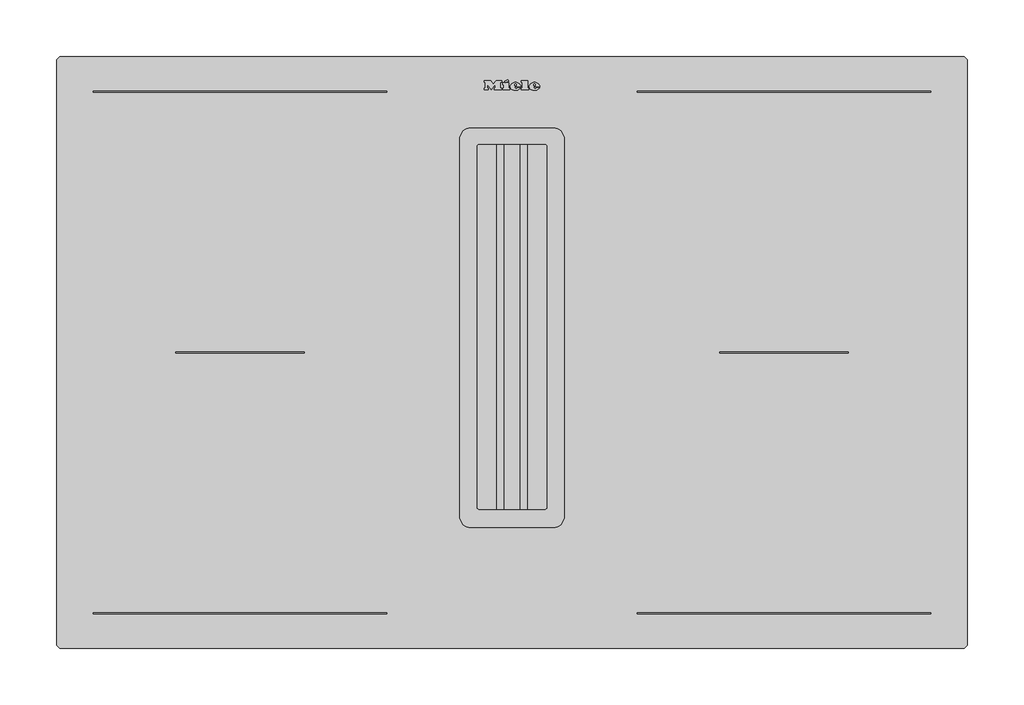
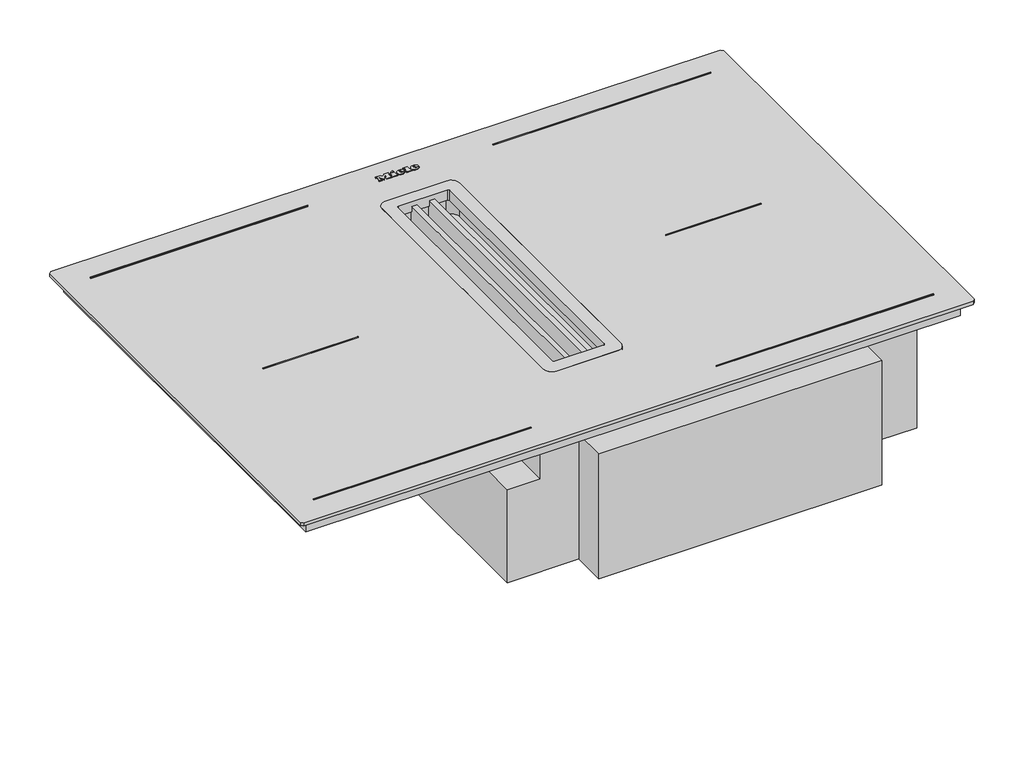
# Not in any storey: 1 proxy.
"""IFC4 building model written with IfcOpenShell, lengths in millimetres."""

import ifcopenshell
import ifcopenshell.guid

model = None  # the IFC model being written
_history = None  # IfcOwnerHistory: only IFC2X3 demands one
_inside = {}  # id of a spatial element -> (the spatial element, [elements in it])
_under = {}  # id of a project, library or spatial element -> (it, [spatial elements below it])
_declared = {}  # id of a project -> (the project, [libraries it declares])
_typed = {}  # id of a type object -> (the type object, [elements of that type])
_made_of = {}  # id of a material, layer set ... -> (it, [elements and type objects made of it])


def new_model(schema):
    """Start an empty IFC model of exactly this schema.

    Asked for "IFC4X3", IfcOpenShell would pick the latest addendum, in which some entities
    have other attributes; the version numbers below select the first issue.
    IFC2X3 requires an IfcOwnerHistory on every rooted entity: one is made here for all.
    """
    global model, _history
    if schema == "IFC4X3":
        model = ifcopenshell.file(schema_version=(4, 3, 0, 0))
    else:
        model = ifcopenshell.file(schema=schema)
    _inside.clear()
    _under.clear()
    _declared.clear()
    _typed.clear()
    _made_of.clear()
    _history = None
    if model.schema == "IFC2X3":
        org = make("IfcOrganization", Name="unknown")
        user = make(
            "IfcPersonAndOrganization",
            ThePerson=make("IfcPerson", FamilyName="unknown"),
            TheOrganization=org,
        )
        app = make(
            "IfcApplication",
            ApplicationDeveloper=org,
            Version="unknown",
            ApplicationFullName="unknown",
            ApplicationIdentifier="unknown",
        )
        _history = make(
            "IfcOwnerHistory",
            OwningUser=user,
            OwningApplication=app,
            ChangeAction="ADDED",
            CreationDate=0,
        )
    return model


def make(cls, **values):
    """One entity of the class cls with the attributes given. An attribute that is None is left unset."""
    return model.create_entity(
        cls, **{name: value for name, value in values.items() if value is not None}
    )


def rooted(cls, **values):
    """An entity with a GlobalId (a new one), such as an element, a storey or a relation."""
    return make(cls, GlobalId=ifcopenshell.guid.new(), OwnerHistory=_history, **values)


def si_unit(unit_type, name, prefix=None):
    """IfcSIUnit, for example si_unit("LENGTHUNIT", "METRE", prefix="MILLI")."""
    return make("IfcSIUnit", UnitType=unit_type, Prefix=prefix, Name=name)


def assignment(units):
    """IfcUnitAssignment: the units of a project."""
    return None if units is None else make("IfcUnitAssignment", Units=units)


def point(xyz):
    """IfcCartesianPoint."""
    return None if xyz is None else make("IfcCartesianPoint", Coordinates=xyz)


def direction(xyz):
    """IfcDirection."""
    return None if xyz is None else make("IfcDirection", DirectionRatios=xyz)


def frame(location, z_axis=None, x_axis=None):
    """IfcAxis2Placement3D, a coordinate frame: its origin and axes. An axis left out is left unset."""
    return make(
        "IfcAxis2Placement3D",
        Location=point(location),
        Axis=direction(z_axis),
        RefDirection=direction(x_axis),
    )


def frame_2d(location, x_axis=None):
    """IfcAxis2Placement2D, a coordinate frame in the plane: its origin and x axis."""
    return make(
        "IfcAxis2Placement2D", Location=point(location), RefDirection=direction(x_axis)
    )


def origin():
    """The frame at (0, 0, 0) with its axes left unset."""
    return frame((0.0, 0.0, 0.0))


def origin_with_axes():
    """The frame at (0, 0, 0) with the z axis (0, 0, 1) and the x axis (1, 0, 0) written out."""
    return frame((0.0, 0.0, 0.0), z_axis=(0.0, 0.0, 1.0), x_axis=(1.0, 0.0, 0.0))


def place(relative_to, where):
    """IfcLocalPlacement: puts the frame where relative to a parent placement (None: the world)."""
    return make(
        "IfcLocalPlacement", PlacementRelTo=relative_to, RelativePlacement=where
    )


def context(
    kind, dimensions, precision=None, world=None, true_north=None, identifier=None
):
    """IfcGeometricRepresentationContext, for example the 3D "Model" context."""
    return make(
        "IfcGeometricRepresentationContext",
        ContextIdentifier=identifier,
        ContextType=kind,
        CoordinateSpaceDimension=dimensions,
        Precision=precision,
        WorldCoordinateSystem=world,
        TrueNorth=true_north,
    )


def project(units=None, contexts=None):
    """IfcProject with its units and contexts."""
    return rooted(
        "IfcProject",
        Name="project",
        RepresentationContexts=contexts,
        UnitsInContext=assignment(units),
    )


def spatial(cls, under=None, at=None, **own):
    """A site, building, storey or space (cls), placed at a placement, below another one or the project."""
    s = rooted(cls, ObjectPlacement=at, **own)
    if under is not None:
        _under.setdefault(under.id(), (under, []))[1].append(s)
    return s


def polyline(points):
    """IfcPolyline through the points."""
    return make("IfcPolyline", Points=[point(p) for p in points])


def circle_curve(where, radius):
    """IfcCircle in the frame where."""
    return make("IfcCircle", Position=where, Radius=radius)


def ellipse_curve(where, semi_axis1, semi_axis2):
    """IfcEllipse in the frame where."""
    return make(
        "IfcEllipse", Position=where, SemiAxis1=semi_axis1, SemiAxis2=semi_axis2
    )


def trimmed(basis, trim1, trim2, sense, master):
    """IfcTrimmedCurve: the piece of a basis curve between two trims."""
    return make(
        "IfcTrimmedCurve",
        BasisCurve=basis,
        Trim1=trim1,
        Trim2=trim2,
        SenseAgreement=sense,
        MasterRepresentation=master,
    )


def segment(curve, same_sense, transition):
    """IfcCompositeCurveSegment."""
    return make(
        "IfcCompositeCurveSegment",
        Transition=transition,
        SameSense=same_sense,
        ParentCurve=curve,
    )


def composite_curve(segments, self_intersect=None):
    """IfcCompositeCurve: segments joined end to end."""
    return make("IfcCompositeCurve", Segments=segments, SelfIntersect=self_intersect)


def outline(outer, holes=None, kind="AREA"):
    """IfcArbitraryClosedProfileDef: a profile drawn as a closed curve; with holes, ...WithVoids."""
    if holes is None:
        return make("IfcArbitraryClosedProfileDef", ProfileType=kind, OuterCurve=outer)
    return make(
        "IfcArbitraryProfileDefWithVoids",
        ProfileType=kind,
        OuterCurve=outer,
        InnerCurves=holes,
    )


def extrude(swept, where, along, depth):
    """IfcExtrudedAreaSolid: the profile swept, set in the frame where, extruded along a direction by depth."""
    return make(
        "IfcExtrudedAreaSolid",
        SweptArea=swept,
        Position=where,
        ExtrudedDirection=direction(along),
        Depth=depth,
    )


def shape(context_of_items, identifier, shape_type, items):
    """IfcShapeRepresentation: the items that make up one representation, for example the "Body"."""
    return make(
        "IfcShapeRepresentation",
        ContextOfItems=context_of_items,
        RepresentationIdentifier=identifier,
        RepresentationType=shape_type,
        Items=items,
    )


def source(mapping_origin, context_of_items, identifier, shape_type, items):
    """IfcRepresentationMap: a shape defined once, which mapped items show again and again."""
    return make(
        "IfcRepresentationMap",
        MappingOrigin=mapping_origin,
        MappedRepresentation=shape(context_of_items, identifier, shape_type, items),
    )


def transform(
    local_origin,
    x_axis=None,
    y_axis=None,
    z_axis=None,
    scale=None,
    scale2=None,
    scale3=None,
    uniform=True,
):
    """IfcCartesianTransformationOperator3D, or its non-uniform kind. x_axis, y_axis, z_axis: its Axis1, 2, 3."""
    if uniform:
        return make(
            "IfcCartesianTransformationOperator3D",
            Axis1=direction(x_axis),
            Axis2=direction(y_axis),
            LocalOrigin=point(local_origin),
            Scale=scale,
            Axis3=direction(z_axis),
        )
    return make(
        "IfcCartesianTransformationOperator3DnonUniform",
        Axis1=direction(x_axis),
        Axis2=direction(y_axis),
        LocalOrigin=point(local_origin),
        Scale=scale,
        Axis3=direction(z_axis),
        Scale2=scale2,
        Scale3=scale3,
    )


def mapped(mapping_source, mapping_target):
    """IfcMappedItem: shows the shape of a source again, moved by a transform."""
    return make(
        "IfcMappedItem", MappingSource=mapping_source, MappingTarget=mapping_target
    )


def made_of(thing, what):
    """Note that an element or type object is made of a material, layer set ...; save() writes the relation."""
    if what is not None:
        _made_of.setdefault(what.id(), (what, []))[1].append(thing)
    return thing


def element(
    cls,
    number,
    at=None,
    inside=None,
    cuts=None,
    type_object=None,
    material=None,
    context=None,
    identifier="Body",
    shape_type=None,
    held_by="IfcProductDefinitionShape",
    body=None,
    shapes=None,
    **own,
):
    """One element of the class cls, such as IfcWall. Its Tag is "e" and its number.

    at: its placement. inside: the storey or other place that contains it. cuts: it is an
    opening in that element (IfcRelVoidsElement). A single representation is given by context,
    identifier, shape_type and body (its items); several are given by shapes. held_by: the class
    of the entity that holds the representations. save() writes the other relations.
    """
    e = rooted(cls, Tag="e%d" % number, ObjectPlacement=at, **own)
    if body is not None:
        shapes = [shape(context, identifier, shape_type, body)]
    if shapes is not None:
        e.Representation = make(held_by, Representations=shapes)
    if inside is not None:
        _inside.setdefault(inside.id(), (inside, []))[1].append(e)
    if cuts is not None:
        rooted(
            "IfcRelVoidsElement", RelatingBuildingElement=cuts, RelatedOpeningElement=e
        )
    if type_object is not None:
        _typed.setdefault(type_object.id(), (type_object, []))[1].append(e)
    return made_of(e, material)


def aggregate(whole, parts):
    """IfcRelAggregates: a whole, such as a stair, and the parts it consists of."""
    return rooted("IfcRelAggregates", RelatingObject=whole, RelatedObjects=parts)


def save(model, path):
    """Write the relations noted so far, then the file.

    IfcRelAggregates (storeys below a building ...), IfcRelContainedInSpatialStructure (elements
    in a storey), IfcRelDefinesByType, IfcRelAssociatesMaterial and IfcRelDeclares: one each for
    every whole, place, type object, material and project.
    """
    for whole, parts in _under.values():
        aggregate(whole, parts)
    for where, things in _inside.values():
        rooted(
            "IfcRelContainedInSpatialStructure",
            RelatedElements=things,
            RelatingStructure=where,
        )
    for kind, things in _typed.values():
        rooted("IfcRelDefinesByType", RelatedObjects=things, RelatingType=kind)
    for what, things in _made_of.values():
        rooted("IfcRelAssociatesMaterial", RelatedObjects=things, RelatingMaterial=what)
    for by, libraries in _declared.values():
        rooted("IfcRelDeclares", RelatingContext=by, RelatedDefinitions=libraries)
    model.write(path)


def plane_surface(at):
    """IfcPlane: the flat surface through the origin of the frame at, square to its z axis."""
    return make("IfcPlane", Position=at)


def cylinder_surface(at, radius):
    """IfcCylindricalSurface: all points at the distance radius from the z axis of the frame at."""
    return make("IfcCylindricalSurface", Position=at, Radius=radius)


def revolved_surface(curve, axis_point, axis_direction):
    """IfcSurfaceOfRevolution: the curve turned about the line through axis_point along axis_direction."""
    return make(
        "IfcSurfaceOfRevolution",
        SweptCurve=make("IfcArbitraryOpenProfileDef", ProfileType="CURVE", Curve=curve),
        AxisPosition=make("IfcAxis1Placement", Location=point(axis_point), Axis=direction(axis_direction)),
    )


def extruded_surface(curve, direction_of_extrusion, depth):
    """IfcSurfaceOfLinearExtrusion: the curve pushed along a direction by depth."""
    return make(
        "IfcSurfaceOfLinearExtrusion",
        SweptCurve=make("IfcArbitraryOpenProfileDef", ProfileType="CURVE", Curve=curve),
        ExtrudedDirection=direction(direction_of_extrusion),
        Depth=depth,
    )


def advanced_brep(points, edges, surfaces, faces):
    """IfcAdvancedBrep: a solid bounded by faces that lie on surfaces and meet in shared edges.

    An edge is (start, end): straight between two places in points (the first is 0);
    or (start, end, curve); or (start, end, curve, False) where it runs against its curve.
    A face is (place in surfaces, loops), or (place, loops, False) where it looks against
    its surface's normal. A loop lists edges by number (the first is 1), with a minus sign
    where the edge is run from its end to its start. The first loop is the outer one.
    """
    corners = [point(p) for p in points]
    vertices = [make("IfcVertexPoint", VertexGeometry=c) for c in corners]
    made = []
    for start, end, *more in edges:
        made.append(
            make(
                "IfcEdgeCurve",
                EdgeStart=vertices[start],
                EdgeEnd=vertices[end],
                EdgeGeometry=more[0] if more else make("IfcPolyline", Points=[corners[start], corners[end]]),
                SameSense=more[1] if len(more) > 1 else True,
            )
        )
    hull = []
    for where, loops, *sense in faces:
        bounds = []
        for j, loop in enumerate(loops):
            ring = [make("IfcOrientedEdge", EdgeElement=made[abs(k) - 1], Orientation=k > 0) for k in loop]
            bounds.append(
                make(
                    "IfcFaceOuterBound" if j == 0 else "IfcFaceBound",
                    Bound=make("IfcEdgeLoop", EdgeList=ring),
                    Orientation=True,
                )
            )
        hull.append(make("IfcAdvancedFace", Bounds=bounds, FaceSurface=surfaces[where], SameSense=sense[0] if sense else True))
    return make("IfcAdvancedBrep", Outer=make("IfcClosedShell", CfsFaces=hull))


def specialty_equipment_ea9cbad4(model_context):
    return source(origin(), model_context, "Body", "SolidModel", [
        advanced_brep(
        [(19.088016, 492.896, 5.0), (19.088016, 493.704, 5.0), (24.440016, 493.704, 5.0), (15.128016, 493.704, 5.0), (17.328016, 491.0, 5.0), (24.304016, 492.896, 5.0), (21.888016, 492.896, 5.0), (19.984016, 492.0, 5.0), (19.088016, 494.728, 5.0), (19.088016, 495.6, 5.0), (20.456016, 495.6, 5.0), (20.456016, 494.728, 5.0), (19.088016, 492.896, 4.0), (19.984016, 492.0, 4.0), (21.888016, 492.896, 4.0), (24.304016, 492.896, 4.0), (17.328016, 491.0, 4.0), (15.128016, 493.704, 4.0), (24.440016, 493.704, 4.0), (19.088016, 493.704, 4.0), (19.088016, 494.728, 4.0), (20.456016, 494.728, 4.0), (20.456016, 495.6, 4.0), (19.088016, 495.6, 4.0)],
        [
            (0, 1),
            (1, 2),
            (2, 3, ellipse_curve(frame((19.784016, 493.704, 5.0), z_axis=(0.0, 0.0, 1.0), x_axis=(-1.0, 0.0, 0.0)), 4.656, 3.848)),
            (3, 4, circle_curve(frame((18.2240596, 493.976, 5.0), z_axis=(0.0, 0.0, 1.0), x_axis=(0.0, -1.0, 0.0)), 3.1079688)),
            (4, 5, circle_curve(frame((19.6908096, 496.088, 5.0), z_axis=(0.0, 0.0, 1.0), x_axis=(0.0, -1.0, 0.0)), 5.6098607)),
            (5, 6),
            (6, 7, circle_curve(frame((20.3750748, 493.64, 5.0), z_axis=(0.0, 0.0, -1.0), x_axis=(0.0, -1.0, 0.0)), 1.6859795)),
            (7, 0, circle_curve(frame((19.984016, 492.896, 5.0), z_axis=(0.0, 0.0, -1.0), x_axis=(0.0, -1.0, 0.0)), 0.896)),
            (8, 9),
            (9, 10, circle_curve(frame((19.772016, 495.6, 5.0), z_axis=(0.0, 0.0, -1.0), x_axis=(0.0, -1.0, 0.0)), 0.684)),
            (10, 11),
            (11, 8),
            (12, 13, circle_curve(frame((19.984016, 492.896, 4.0), z_axis=(0.0, 0.0, 1.0), x_axis=(0.0, -1.0, 0.0)), 0.896)),
            (13, 14, circle_curve(frame((20.3750748, 493.64, 4.0), z_axis=(0.0, 0.0, 1.0), x_axis=(0.0, -1.0, 0.0)), 1.6859795)),
            (14, 15),
            (15, 16, circle_curve(frame((19.6908096, 496.088, 4.0), z_axis=(0.0, 0.0, -1.0), x_axis=(0.0, -1.0, 0.0)), 5.6098607)),
            (16, 17, circle_curve(frame((18.2240596, 493.976, 4.0), z_axis=(0.0, 0.0, -1.0), x_axis=(0.0, -1.0, 0.0)), 3.1079688)),
            (17, 18, ellipse_curve(frame((19.784016, 493.704, 4.0), z_axis=(0.0, 0.0, -1.0), x_axis=(-1.0, 0.0, 0.0)), 4.656, 3.848)),
            (18, 19),
            (19, 12),
            (20, 21),
            (21, 22),
            (22, 23, circle_curve(frame((19.772016, 495.6, 4.0), z_axis=(0.0, 0.0, 1.0), x_axis=(0.0, -1.0, 0.0)), 0.684)),
            (23, 20),
            (0, 12),
            (19, 1),
            (18, 2),
            (5, 15),
            (14, 6),
            (17, 3),
            (13, 7),
            (16, 4),
            (8, 20),
            (23, 9),
            (22, 10),
            (21, 11),
        ],
        [
            plane_surface(frame((19.088016, 493.704, 5.0), z_axis=(0.0, 0.0, 1.0), x_axis=(0.0, 1.0, 0.0))),
            plane_surface(frame((19.088016, 493.704, 4.0), z_axis=(0.0, 0.0, -1.0), x_axis=(0.0, -1.0, 0.0))),
            plane_surface(frame((19.088016, 492.896, 5.0), z_axis=(1.0, 0.0, 0.0), x_axis=(0.0, 0.0, -1.0))),
            plane_surface(frame((19.088016, 493.704, 5.0), z_axis=(0.0, -1.0, 0.0), x_axis=(0.0, 0.0, -1.0))),
            plane_surface(frame((24.304016, 492.896, 5.0), z_axis=(0.0, 1.0, 0.0), x_axis=(0.0, 0.0, -1.0))),
            extruded_surface(trimmed(ellipse_curve(frame((19.784016, 493.704, 3.0), z_axis=(0.0, 0.0, 1.0), x_axis=(-1.0, 0.0, 0.0)), 4.656, 3.848), [point((24.440016, 493.704, 3.0))], [point((15.128016, 493.704, 3.0))], True, "CARTESIAN"), (0.0, 0.0, 1.0), 1.0),
            revolved_surface(polyline([(20.3750748, 491.9540205, 4.0), (20.3750748, 491.9540205, 5.0)]), (20.3750748, 493.64, 4.0), (0.0, 0.0, -1.0)),
            revolved_surface(polyline([(19.984016, 492.0, 4.0), (19.984016, 492.0, 5.0)]), (19.984016, 492.896, 4.0), (0.0, 0.0, -1.0)),
            cylinder_surface(frame((18.2240596, 493.976, 4.0), z_axis=(0.0, 0.0, 1.0), x_axis=(0.0, -1.0, 0.0)), 3.1079688),
            cylinder_surface(frame((19.6908096, 496.088, 4.0), z_axis=(0.0, 0.0, 1.0), x_axis=(0.0, -1.0, 0.0)), 5.6098607),
            plane_surface(frame((19.088016, 494.728, 5.0), z_axis=(1.0, 0.0, 0.0), x_axis=(0.0, 0.0, -1.0))),
            revolved_surface(polyline([(19.772016, 494.916, 4.0), (19.772016, 494.916, 5.0)]), (19.772016, 495.6, 4.0), (0.0, 0.0, -1.0)),
            plane_surface(frame((20.456016, 495.6, 5.0), z_axis=(-1.0, 0.0, 0.0), x_axis=(0.0, 0.0, -1.0))),
            plane_surface(frame((20.456016, 494.728, 5.0), z_axis=(0.0, 1.0, 0.0), x_axis=(0.0, 0.0, -1.0))),
        ],
        [
            (0, [[1, 2, 3, 4, 5, 6, 7, 8], [9, 10, 11, 12]]),
            (1, [[13, 14, 15, 16, 17, 18, 19, 20], [21, 22, 23, 24]]),
            (2, [[-1, 25, -20, 26]]),
            (3, [[-2, -26, -19, 27]]),
            (4, [[-6, 28, -15, 29]]),
            (5, [[-3, -27, -18, 30]]),
            (6, [[-7, -29, -14, 31]]),
            (7, [[-8, -31, -13, -25]]),
            (8, [[-4, -30, -17, 32]]),
            (9, [[-5, -32, -16, -28]]),
            (10, [[-9, 33, -24, 34]]),
            (11, [[-10, -34, -23, 35]]),
            (12, [[-11, -35, -22, 36]]),
            (13, [[-12, -36, -21, -33]]),
        ],
    ),
        advanced_brep(
        [(2.392016, 492.896, 5.0), (2.392016, 493.704, 5.0), (7.744016, 493.704, 5.0), (-1.567984, 493.704, 5.0), (0.632016, 491.0, 5.0), (7.608016, 492.896, 5.0), (5.192016, 492.896, 5.0), (3.288016, 492.0, 5.0), (2.392016, 494.728, 5.0), (2.392016, 495.6, 5.0), (3.760016, 495.6, 5.0), (3.760016, 494.728, 5.0), (2.392016, 492.896, 4.0), (3.288016, 492.0, 4.0), (5.192016, 492.896, 4.0), (7.608016, 492.896, 4.0), (0.632016, 491.0, 4.0), (-1.567984, 493.704, 4.0), (7.744016, 493.704, 4.0), (2.392016, 493.704, 4.0), (2.392016, 494.728, 4.0), (3.760016, 494.728, 4.0), (3.760016, 495.6, 4.0), (2.392016, 495.6, 4.0)],
        [
            (0, 1),
            (1, 2),
            (2, 3, ellipse_curve(frame((3.088016, 493.704, 5.0), z_axis=(0.0, 0.0, 1.0), x_axis=(-1.0, 0.0, 0.0)), 4.656, 3.848)),
            (3, 4, circle_curve(frame((1.5280596, 493.976, 5.0), z_axis=(0.0, 0.0, 1.0), x_axis=(0.0, -1.0, 0.0)), 3.1079688)),
            (4, 5, circle_curve(frame((2.9948096, 496.088, 5.0), z_axis=(0.0, 0.0, 1.0), x_axis=(0.0, -1.0, 0.0)), 5.6098607)),
            (5, 6),
            (6, 7, circle_curve(frame((3.6790748, 493.64, 5.0), z_axis=(0.0, 0.0, -1.0), x_axis=(0.0, -1.0, 0.0)), 1.6859795)),
            (7, 0, circle_curve(frame((3.288016, 492.896, 5.0), z_axis=(0.0, 0.0, -1.0), x_axis=(0.0, -1.0, 0.0)), 0.896)),
            (8, 9),
            (9, 10, circle_curve(frame((3.076016, 495.6, 5.0), z_axis=(0.0, 0.0, -1.0), x_axis=(0.0, -1.0, 0.0)), 0.684)),
            (10, 11),
            (11, 8),
            (12, 13, circle_curve(frame((3.288016, 492.896, 4.0), z_axis=(0.0, 0.0, 1.0), x_axis=(0.0, -1.0, 0.0)), 0.896)),
            (13, 14, circle_curve(frame((3.6790748, 493.64, 4.0), z_axis=(0.0, 0.0, 1.0), x_axis=(0.0, -1.0, 0.0)), 1.6859795)),
            (14, 15),
            (15, 16, circle_curve(frame((2.9948096, 496.088, 4.0), z_axis=(0.0, 0.0, -1.0), x_axis=(0.0, -1.0, 0.0)), 5.6098607)),
            (16, 17, circle_curve(frame((1.5280596, 493.976, 4.0), z_axis=(0.0, 0.0, -1.0), x_axis=(0.0, -1.0, 0.0)), 3.1079688)),
            (17, 18, ellipse_curve(frame((3.088016, 493.704, 4.0), z_axis=(0.0, 0.0, -1.0), x_axis=(-1.0, 0.0, 0.0)), 4.656, 3.848)),
            (18, 19),
            (19, 12),
            (20, 21),
            (21, 22),
            (22, 23, circle_curve(frame((3.076016, 495.6, 4.0), z_axis=(0.0, 0.0, 1.0), x_axis=(0.0, -1.0, 0.0)), 0.684)),
            (23, 20),
            (0, 12),
            (19, 1),
            (18, 2),
            (5, 15),
            (14, 6),
            (17, 3),
            (13, 7),
            (16, 4),
            (8, 20),
            (23, 9),
            (22, 10),
            (21, 11),
        ],
        [
            plane_surface(frame((2.392016, 493.704, 5.0), z_axis=(0.0, 0.0, 1.0), x_axis=(0.0, 1.0, 0.0))),
            plane_surface(frame((2.392016, 493.704, 4.0), z_axis=(0.0, 0.0, -1.0), x_axis=(0.0, -1.0, 0.0))),
            plane_surface(frame((2.392016, 492.896, 5.0), z_axis=(1.0, 0.0, 0.0), x_axis=(0.0, 0.0, -1.0))),
            plane_surface(frame((2.392016, 493.704, 5.0), z_axis=(0.0, -1.0, 0.0), x_axis=(0.0, 0.0, -1.0))),
            plane_surface(frame((7.608016, 492.896, 5.0), z_axis=(0.0, 1.0, 0.0), x_axis=(0.0, 0.0, -1.0))),
            extruded_surface(trimmed(ellipse_curve(frame((3.088016, 493.704, 3.0), z_axis=(0.0, 0.0, 1.0), x_axis=(-1.0, 0.0, 0.0)), 4.656, 3.848), [point((7.744016, 493.704, 3.0))], [point((-1.567984, 493.704, 3.0))], True, "CARTESIAN"), (0.0, 0.0, 1.0), 1.0),
            revolved_surface(polyline([(3.6790748, 491.9540205, 4.0), (3.6790748, 491.9540205, 5.0)]), (3.6790748, 493.64, 4.0), (0.0, 0.0, -1.0)),
            revolved_surface(polyline([(3.288016, 492.0, 4.0), (3.288016, 492.0, 5.0)]), (3.288016, 492.896, 4.0), (0.0, 0.0, -1.0)),
            cylinder_surface(frame((1.5280596, 493.976, 4.0), z_axis=(0.0, 0.0, 1.0), x_axis=(0.0, -1.0, 0.0)), 3.1079688),
            cylinder_surface(frame((2.9948096, 496.088, 4.0), z_axis=(0.0, 0.0, 1.0), x_axis=(0.0, -1.0, 0.0)), 5.6098607),
            plane_surface(frame((2.392016, 494.728, 5.0), z_axis=(1.0, 0.0, 0.0), x_axis=(0.0, 0.0, -1.0))),
            revolved_surface(polyline([(3.076016, 494.916, 4.0), (3.076016, 494.916, 5.0)]), (3.076016, 495.6, 4.0), (0.0, 0.0, -1.0)),
            plane_surface(frame((3.760016, 495.6, 5.0), z_axis=(-1.0, 0.0, 0.0), x_axis=(0.0, 0.0, -1.0))),
            plane_surface(frame((3.760016, 494.728, 5.0), z_axis=(0.0, 1.0, 0.0), x_axis=(0.0, 0.0, -1.0))),
        ],
        [
            (0, [[1, 2, 3, 4, 5, 6, 7, 8], [9, 10, 11, 12]]),
            (1, [[13, 14, 15, 16, 17, 18, 19, 20], [21, 22, 23, 24]]),
            (2, [[-1, 25, -20, 26]]),
            (3, [[-2, -26, -19, 27]]),
            (4, [[-6, 28, -15, 29]]),
            (5, [[-3, -27, -18, 30]]),
            (6, [[-7, -29, -14, 31]]),
            (7, [[-8, -31, -13, -25]]),
            (8, [[-4, -30, -17, 32]]),
            (9, [[-5, -32, -16, -28]]),
            (10, [[-9, 33, -24, 34]]),
            (11, [[-10, -34, -23, 35]]),
            (12, [[-11, -35, -22, 36]]),
            (13, [[-12, -36, -21, -33]]),
        ],
    ),
        extrude(outline(polyline([(-6.351984, 498.528), (-3.631984, 499.792), (-3.031984, 498.496), (-5.743984, 497.232), (-6.351984, 498.528)])), frame((0.0, 0.0, 4.0), z_axis=(0.0, 0.0, 1.0), x_axis=(1.0, 0.0, 0.0)), (0.0, 0.0, 1.0), 1.0),
        extrude(outline(polyline([(-8.327984, 497.056), (-2.943984, 497.056), (-2.943984, 492.344), (-2.015984, 492.344), (-2.015984, 491.0), (-8.327984, 491.0), (-8.327984, 492.344), (-7.375984, 492.344), (-7.375984, 495.624), (-8.327984, 495.624), (-8.327984, 497.056)])), frame((0.0, 0.0, 4.0), z_axis=(0.0, 0.0, 1.0), x_axis=(1.0, 0.0, 0.0)), (0.0, 0.0, 1.0), 1.0),
        extrude(outline(polyline([(8.192016, 497.696), (8.192016, 499.0), (13.696016, 499.0), (13.696016, 492.344), (14.680016, 492.344), (14.680016, 491.0), (8.192016, 491.0), (8.192016, 492.344), (9.152016, 492.344), (9.152016, 497.696), (8.192016, 497.696)])), frame((0.0, 0.0, 4.0), z_axis=(0.0, 0.0, 1.0), x_axis=(1.0, 0.0, 0.0)), (0.0, 0.0, 1.0), 1.0),
        extrude(outline(polyline([(-24.271984, 497.696), (-24.271984, 499.0), (-18.695984, 499.0), (-16.351984, 496.0), (-14.015984, 499.0), (-9.143984, 499.0), (-9.143984, 497.696), (-10.159984, 497.696), (-10.159984, 492.344), (-9.143984, 492.344), (-9.143984, 491.0), (-15.527984, 491.0), (-15.527984, 492.344), (-14.543984, 492.344), (-14.543984, 495.8152223), (-18.135984, 491.0), (-21.711984, 495.7471247), (-21.711984, 492.344), (-20.751984, 492.344), (-20.751984, 491.0), (-24.271984, 491.0), (-24.271984, 492.344), (-23.303984, 492.344), (-23.303984, 497.696), (-24.271984, 497.696)])), frame((0.0, 0.0, 4.0), z_axis=(0.0, 0.0, 1.0), x_axis=(1.0, 0.0, 0.0)), (0.0, 0.0, 1.0), 1.0),
        extrude(outline(polyline([(-368.065788, 489.8634331), (-110.065788, 489.8634331), (-110.065788, 489.0732086), (-368.065788, 489.0732086), (-368.065788, 489.8634331)])), frame((0.0, 0.0, 4.0), z_axis=(0.0, 0.0, 1.0), x_axis=(1.0, 0.0, 0.0)), (0.0, 0.0, 1.0), 1.0),
        extrude(outline(polyline([(368.065788, 489.8634331), (368.065788, 489.0732086), (110.065788, 489.0732086), (110.065788, 489.8634331), (368.065788, 489.8634331)])), frame((0.0, 0.0, 4.0), z_axis=(0.0, 0.0, 1.0), x_axis=(1.0, 0.0, 0.0)), (0.0, 0.0, 1.0), 1.0),
        extrude(outline(polyline([(-368.065788, 30.1365667), (-368.065788, 30.9267912), (-110.065788, 30.9267912), (-110.065788, 30.1365667), (-368.065788, 30.1365667)])), frame((0.0, 0.0, 4.0), z_axis=(0.0, 0.0, 1.0), x_axis=(1.0, 0.0, 0.0)), (0.0, 0.0, 1.0), 1.0),
        extrude(outline(polyline([(368.065788, 30.1365667), (110.065788, 30.1365667), (110.065788, 30.9267912), (368.065788, 30.9267912), (368.065788, 30.1365667)])), frame((0.0, 0.0, 4.0), z_axis=(0.0, 0.0, 1.0), x_axis=(1.0, 0.0, 0.0)), (0.0, 0.0, 1.0), 1.0),
        extrude(outline(polyline([(-295.5, 260.3951122), (-182.5, 260.3951122), (-182.5, 259.6048876), (-295.5, 259.6048876), (-295.5, 260.3951122)])), frame((0.0, 0.0, 4.0), z_axis=(0.0, 0.0, 1.0), x_axis=(1.0, 0.0, 0.0)), (0.0, 0.0, 1.0), 1.0),
        extrude(outline(polyline([(295.5, 260.3951122), (295.5, 259.6048876), (182.5, 259.6048876), (182.5, 260.3951122), (295.5, 260.3951122)])), frame((0.0, 0.0, 4.0), z_axis=(0.0, 0.0, 1.0), x_axis=(1.0, 0.0, 0.0)), (0.0, 0.0, 1.0), 1.0),
        extrude(outline(composite_curve([segment(polyline([(-45.9999987, 115.9999992), (-45.9999987, 447.4999992)]), True, "CONTINUOUS"), segment(trimmed(circle_curve(frame_2d((-35.9999987, 447.4999992)), 10.0), [point((-45.9999987, 447.4999992))], [point((-35.9999987, 457.4999992))], False, "CARTESIAN"), True, "CONTINUOUS"), segment(polyline([(-35.9999987, 457.4999992), (35.9999987, 457.4999992)]), True, "CONTINUOUS"), segment(trimmed(circle_curve(frame_2d((35.9999987, 447.4999992)), 10.0), [point((35.9999987, 457.4999992))], [point((45.9999987, 447.4999992))], False, "CARTESIAN"), True, "CONTINUOUS"), segment(polyline([(45.9999987, 447.4999992), (45.9999987, 115.9999992)]), True, "CONTINUOUS"), segment(trimmed(circle_curve(frame_2d((35.9999987, 115.9999992)), 10.0), [point((45.9999987, 115.9999992))], [point((35.9999987, 105.9999992))], False, "CARTESIAN"), True, "CONTINUOUS"), segment(polyline([(35.9999987, 105.9999992), (-35.9999987, 105.9999992)]), True, "CONTINUOUS"), segment(trimmed(circle_curve(frame_2d((-35.9999987, 115.9999992)), 10.0), [point((-35.9999987, 105.9999992))], [point((-45.9999987, 115.9999992))], False, "CARTESIAN"), True, "CONTINUOUS")], self_intersect=False), holes=[composite_curve([segment(trimmed(circle_curve(frame_2d((-28.688139, 124.1576538)), 2.0), [point((-30.688139, 124.1576538))], [point((-28.688139, 122.1576538))], True, "CARTESIAN"), True, "CONTINUOUS"), segment(polyline([(-28.688139, 122.1576538), (28.688139, 122.1576538)]), True, "CONTINUOUS"), segment(trimmed(circle_curve(frame_2d((28.688139, 124.1576538)), 2.0), [point((28.688139, 122.1576538))], [point((30.688139, 124.1576538))], True, "CARTESIAN"), True, "CONTINUOUS"), segment(polyline([(30.688139, 124.1576538), (30.688139, 440.9186707)]), True, "CONTINUOUS"), segment(trimmed(circle_curve(frame_2d((28.688139, 440.9186707)), 2.0), [point((30.688139, 440.9186707))], [point((28.688139, 442.9186707))], True, "CARTESIAN"), True, "CONTINUOUS"), segment(polyline([(28.688139, 442.9186707), (-28.688139, 442.9186707)]), True, "CONTINUOUS"), segment(trimmed(circle_curve(frame_2d((-28.688139, 440.9186707)), 2.0), [point((-28.688139, 442.9186707))], [point((-30.688139, 440.9186707))], True, "CARTESIAN"), True, "CONTINUOUS"), segment(polyline([(-30.688139, 440.9186707), (-30.688139, 124.1576538)]), True, "CONTINUOUS")], self_intersect=False)]), frame((0.0, 0.0, -8.5215403), z_axis=(0.0, 0.0, 1.0), x_axis=(1.0, 0.0, 0.0)), (0.0, 0.0, 1.0), 12.5215403),
        extrude(outline(polyline([(-343.1216701, 96.3863349), (-343.1216701, 495.0), (-75.402586, 495.0), (-75.402586, 96.3863349), (-343.1216701, 96.3863349)])), frame((0.0, 0.0, -46.5), z_axis=(0.0, 0.0, 1.0), x_axis=(1.0, 0.0, 0.0)), (0.0, 0.0, 1.0), 28.6958097),
        extrude(outline(polyline([(336.1107845, 495.0), (336.1107845, 96.3863349), (104.0, 96.3863349), (104.0, 495.0), (336.1107845, 495.0)])), frame((0.0, 0.0, -46.5), z_axis=(0.0, 0.0, 1.0), x_axis=(1.0, 0.0, 0.0)), (0.0, 0.0, 1.0), 28.6958097),
        extrude(outline(polyline([(388.5, 508.4999986), (388.5, 11.4999971), (-388.5, 11.4999971), (-388.5, 508.4999986), (388.5, 508.4999986)]), holes=[composite_curve([segment(polyline([(45.9999987, 115.9999979), (45.9999987, 447.4999992)]), True, "CONTINUOUS"), segment(trimmed(circle_curve(frame_2d((35.9999987, 447.4999992)), 10.0), [point((45.9999987, 447.4999992))], [point((35.9999987, 457.4999992))], True, "CARTESIAN"), True, "CONTINUOUS"), segment(polyline([(35.9999987, 457.4999992), (-35.9999987, 457.4999992)]), True, "CONTINUOUS"), segment(trimmed(circle_curve(frame_2d((-35.9999987, 447.4999992)), 10.0), [point((-35.9999987, 457.4999992))], [point((-45.9999987, 447.4999992))], True, "CARTESIAN"), True, "CONTINUOUS"), segment(polyline([(-45.9999987, 447.4999992), (-45.9999987, 115.9999979)]), True, "CONTINUOUS"), segment(trimmed(circle_curve(frame_2d((-36.0, 115.9999979)), 9.9999987), [point((-45.9999987, 115.9999979))], [point((-36.0, 105.9999992))], True, "CARTESIAN"), True, "CONTINUOUS"), segment(polyline([(-36.0, 105.9999992), (36.0, 105.9999992)]), True, "CONTINUOUS"), segment(trimmed(circle_curve(frame_2d((36.0, 115.9999979)), 9.9999987), [point((36.0, 105.9999992))], [point((45.9999987, 115.9999979))], True, "CARTESIAN"), True, "CONTINUOUS")], self_intersect=False)]), frame((0.0, 0.0, -17.8041903), z_axis=(0.0, 0.0, 1.0), x_axis=(1.0, 0.0, 0.0)), (0.0, 0.0, 1.0), 17.8041903),
        extrude(outline(polyline([(397.5, 520.0), (400.0, 517.5), (400.0, 2.5), (397.5, 0.0), (-397.5, 0.0), (-400.0, 2.5), (-400.0, 517.5), (-397.5, 520.0), (397.5, 520.0)]), holes=[composite_curve([segment(polyline([(35.9999987, 457.4999992), (-35.9999987, 457.4999992)]), True, "CONTINUOUS"), segment(trimmed(circle_curve(frame_2d((-35.9999987, 447.4999992)), 10.0), [point((-35.9999987, 457.4999992))], [point((-45.9999987, 447.4999992))], True, "CARTESIAN"), True, "CONTINUOUS"), segment(polyline([(-45.9999987, 447.4999992), (-45.9999987, 115.9999979)]), True, "CONTINUOUS"), segment(trimmed(circle_curve(frame_2d((-36.0, 115.9999979)), 9.9999987), [point((-45.9999987, 115.9999979))], [point((-36.0, 105.9999992))], True, "CARTESIAN"), True, "CONTINUOUS"), segment(polyline([(-36.0, 105.9999992), (36.0, 105.9999992)]), True, "CONTINUOUS"), segment(trimmed(circle_curve(frame_2d((36.0, 115.9999979)), 9.9999987), [point((36.0, 105.9999992))], [point((45.9999987, 115.9999979))], True, "CARTESIAN"), True, "CONTINUOUS"), segment(polyline([(45.9999987, 115.9999979), (45.9999987, 447.4999992)]), True, "CONTINUOUS"), segment(trimmed(circle_curve(frame_2d((35.9999987, 447.4999992)), 10.0), [point((45.9999987, 447.4999992))], [point((35.9999987, 457.4999992))], True, "CARTESIAN"), True, "CONTINUOUS")], self_intersect=False)]), origin_with_axes(), (0.0, 0.0, 1.0), 4.0),
        extrude(outline(composite_curve([segment(trimmed(circle_curve(frame_2d((-148.0, 170.0)), 78.9393921), [point((-148.0, 91.0606079))], [point((-148.0, 248.9393921))], False, "CARTESIAN"), True, "CONTINUOUS"), segment(trimmed(circle_curve(frame_2d((-148.0, 170.0)), 78.9393921), [point((-148.0, 248.9393921))], [point((-148.0, 91.0606079))], False, "CARTESIAN"), True, "CONTINUOUS")], self_intersect=False), holes=[composite_curve([segment(trimmed(circle_curve(frame_2d((-148.0, 170.0)), 77.9393921), [point((-148.0, 92.0606079))], [point((-148.0, 247.9393921))], True, "CARTESIAN"), True, "CONTINUOUS"), segment(trimmed(circle_curve(frame_2d((-148.0, 170.0)), 77.9393921), [point((-148.0, 247.9393921))], [point((-148.0, 92.0606079))], True, "CARTESIAN"), True, "CONTINUOUS")], self_intersect=False)]), frame((0.0, 426.3304607, 0.0), z_axis=(0.0, 1.0, 0.0), x_axis=(0.0, 0.0, 1.0)), (0.0, 0.0, 1.0), 17.9123918),
        extrude(outline(polyline([(-13.6048155, 120.1989746), (-13.6048155, 443.7301863), (-7.3951845, 443.7301863), (-7.3951845, 120.1989746), (-13.6048155, 120.1989746)])), frame((0.0, 0.0, -26.3132825), z_axis=(0.0, 0.0, 1.0), x_axis=(1.0, 0.0, 0.0)), (0.0, 0.0, 1.0), 24.7104098),
        extrude(outline(polyline([(13.6048155, 120.1989746), (7.3951845, 120.1989746), (7.3951845, 443.7301863), (13.6048155, 443.7301863), (13.6048155, 120.1989746)])), frame((0.0, 0.0, -26.3132825), z_axis=(0.0, 0.0, 1.0), x_axis=(1.0, 0.0, 0.0)), (0.0, 0.0, 1.0), 24.7104098),
        advanced_brep(
        [(53.6506051, 96.5541828, -54.0), (52.4705494, 96.5541828, -54.0), (52.4705494, 96.5541828, -17.8041903), (-52.4705494, 96.5541828, -17.8041903), (-52.4705494, 96.5541828, -54.0), (-60.8014535, 96.5541828, -54.0), (-60.8014535, 96.5541828, -117.5), (-100.1207428, 96.5541828, -117.5), (-100.1207428, 96.5541828, -234.0), (-15.0, 96.5541828, -234.0), (-15.0, 96.5541828, -77.5), (53.6506051, 96.5541828, -77.5), (-100.1207428, 495.5, -234.0), (-100.1207428, 495.5, -117.5), (-60.8014535, 495.5, -117.5), (-60.8014535, 495.5, -54.0), (-52.4705494, 495.5, -54.0), (-52.4705494, 495.5, -17.8041903), (52.4705494, 495.5, -17.8041903), (52.4705494, 495.5, -54.0), (53.6506051, 495.5, -54.0), (53.6506051, 495.5, -234.0), (53.6506051, 101.0, -77.5), (53.6506051, 101.0, -56.9972547), (53.6506051, 426.3304607, -56.9972547), (53.6506051, 426.3304607, -234.0), (45.9999987, 447.4999992, -17.8041903), (45.9999987, 115.9999979, -17.8041903), (36.0, 105.9999992, -17.8041903), (-36.0, 105.9999992, -17.8041903), (-45.9999987, 115.9999979, -17.8041903), (-45.9999987, 447.4999992, -17.8041903), (-35.9999987, 457.4999992, -17.8041903), (35.9999987, 457.4999992, -17.8041903), (388.5, 101.0, -56.9972547), (321.1107845, 101.0, -77.5), (321.1107845, 101.0, -213.2731462), (388.5, 101.0, -213.2731462), (388.5, 426.3304607, -56.9972547), (388.5, 426.3304607, -213.2731462), (342.3970703, 426.3304607, -213.2731462), (342.3970703, 426.3304607, -234.0), (342.3970703, 388.6357055, -234.0), (380.8010657, 352.3414513, -234.0), (380.8010657, 214.7386902, -234.0), (267.9814513, 109.112153, -234.0), (321.1107845, 109.112153, -234.0), (321.1107845, 55.7496808, -234.0), (-15.0, 55.7496808, -234.0), (380.8010657, 214.7386902, -213.2731462), (380.8010657, 352.3414513, -213.2731462), (342.3970703, 388.6357055, -213.2731462), (321.1107845, 109.112153, -213.2731462), (267.9814513, 109.112153, -213.2731462), (45.9999987, 115.9999979, -38.2608409), (45.9999987, 447.4999992, -38.2608409), (35.9999987, 457.4999992, -38.2608409), (-35.9999987, 457.4999992, -38.2608409), (-45.9999987, 447.4999992, -38.2608409), (-45.9999987, 115.9999979, -38.2608409), (-36.0, 105.9999992, -38.2608409), (36.0, 105.9999992, -38.2608409), (-15.0, 55.7496808, -77.5), (321.1107845, 55.7496808, -77.5)],
        [
            (0, 1),
            (1, 2),
            (2, 3),
            (3, 4),
            (4, 5),
            (5, 6),
            (6, 7),
            (7, 8),
            (8, 9),
            (9, 10),
            (10, 11),
            (11, 0),
            (12, 13),
            (13, 14),
            (14, 15),
            (15, 16),
            (16, 17),
            (17, 18),
            (18, 19),
            (19, 20),
            (20, 21),
            (21, 12),
            (20, 0),
            (11, 22),
            (22, 23),
            (23, 24),
            (24, 25),
            (25, 21),
            (19, 1),
            (18, 2),
            (17, 3),
            (26, 27),
            (27, 28, circle_curve(frame((36.0, 115.9999979, -17.8041903), z_axis=(0.0, 0.0, -1.0), x_axis=(1.0, 0.0, 0.0)), 9.9999987)),
            (28, 29),
            (29, 30, circle_curve(frame((-36.0, 115.9999979, -17.8041903), z_axis=(0.0, 0.0, -1.0), x_axis=(1.0, 0.0, 0.0)), 9.9999987)),
            (30, 31),
            (31, 32, circle_curve(frame((-35.9999987, 447.4999992, -17.8041903), z_axis=(0.0, 0.0, -1.0), x_axis=(1.0, 0.0, 0.0)), 10.0)),
            (32, 33),
            (33, 26, circle_curve(frame((35.9999987, 447.4999992, -17.8041903), z_axis=(0.0, 0.0, -1.0), x_axis=(1.0, 0.0, 0.0)), 10.0)),
            (16, 4),
            (15, 5),
            (14, 6),
            (13, 7),
            (12, 8),
            (34, 23),
            (22, 35),
            (35, 36),
            (36, 37),
            (37, 34),
            (24, 38),
            (38, 39),
            (39, 40),
            (40, 41),
            (41, 25),
            (38, 34),
            (37, 39),
            (41, 42),
            (42, 43, circle_curve(frame((322.8680046, 329.506125, -234.0), z_axis=(0.0, 0.0, -1.0), x_axis=(1.0, 0.0, 0.0)), 62.2711145)),
            (43, 44),
            (44, 45, circle_curve(frame((212.1419224, 281.8188418, -234.0), z_axis=(0.0, 0.0, -1.0), x_axis=(1.0, 0.0, 0.0)), 181.5093753)),
            (45, 46),
            (46, 47),
            (47, 48),
            (48, 9),
            (49, 50),
            (50, 51, circle_curve(frame((322.8680046, 329.506125, -213.2731462), z_axis=(0.0, 0.0, 1.0), x_axis=(1.0, 0.0, 0.0)), 62.2711145)),
            (51, 40),
            (36, 52),
            (52, 53),
            (53, 49, circle_curve(frame((212.1419224, 281.8188418, -213.2731462), z_axis=(0.0, 0.0, 1.0), x_axis=(1.0, 0.0, 0.0)), 181.5093753)),
            (49, 44),
            (43, 50),
            (53, 45),
            (51, 42),
            (54, 55),
            (55, 56, circle_curve(frame((35.9999987, 447.4999992, -38.2608409), z_axis=(0.0, 0.0, 1.0), x_axis=(1.0, 0.0, 0.0)), 10.0)),
            (56, 57),
            (57, 58, circle_curve(frame((-35.9999987, 447.4999992, -38.2608409), z_axis=(0.0, 0.0, 1.0), x_axis=(1.0, 0.0, 0.0)), 10.0)),
            (58, 59),
            (59, 60, circle_curve(frame((-36.0, 115.9999979, -38.2608409), z_axis=(0.0, 0.0, 1.0), x_axis=(1.0, 0.0, 0.0)), 9.9999987)),
            (60, 61),
            (61, 54, circle_curve(frame((36.0, 115.9999979, -38.2608409), z_axis=(0.0, 0.0, 1.0), x_axis=(1.0, 0.0, 0.0)), 9.9999987)),
            (54, 27),
            (26, 55),
            (33, 56),
            (32, 57),
            (31, 58),
            (30, 59),
            (29, 60),
            (28, 61),
            (62, 48),
            (47, 63),
            (63, 62),
            (52, 46),
            (62, 10),
            (35, 63),
        ],
        [
            plane_surface(frame((380.8010657, 96.5541828, -234.0), z_axis=(0.0, -1.0, 0.0), x_axis=(1.0, 0.0, 0.0))),
            plane_surface(frame((380.8010657, 495.5, -234.0), z_axis=(0.0, 1.0, 0.0), x_axis=(-1.0, 0.0, 0.0))),
            plane_surface(frame((53.6506051, 96.5541828, -234.0), z_axis=(1.0, 0.0, 0.0), x_axis=(0.0, 1.0, 0.0))),
            plane_surface(frame((53.6506051, 96.5541828, -54.0), z_axis=(0.0, 0.0, 1.0), x_axis=(0.0, 1.0, 0.0))),
            plane_surface(frame((52.4705494, 96.5541828, -54.0), z_axis=(1.0, 0.0, 0.0), x_axis=(0.0, 1.0, 0.0))),
            plane_surface(frame((52.4705494, 96.5541828, -17.8041903), z_axis=(0.0, 0.0, 1.0), x_axis=(0.0, 1.0, 0.0))),
            plane_surface(frame((-52.4705494, 96.5541828, -17.8041903), z_axis=(-1.0, 0.0, 0.0), x_axis=(0.0, 1.0, 0.0))),
            plane_surface(frame((-52.4705494, 96.5541828, -54.0), z_axis=(0.0, 0.0, 1.0), x_axis=(0.0, 1.0, 0.0))),
            plane_surface(frame((-60.8014535, 96.5541828, -54.0), z_axis=(-1.0, 0.0, 0.0), x_axis=(0.0, 1.0, 0.0))),
            plane_surface(frame((-60.8014535, 96.5541828, -117.5), z_axis=(0.0, 0.0, 1.0), x_axis=(0.0, 1.0, 0.0))),
            plane_surface(frame((-100.1207428, 96.5541828, -117.5), z_axis=(-1.0, 0.0, 0.0), x_axis=(0.0, 1.0, 0.0))),
            plane_surface(frame((53.7285029, 101.0, -56.9972547), z_axis=(0.0, -1.0, 0.0), x_axis=(-1.0, 0.0, 0.0))),
            plane_surface(frame((53.7285029, 426.3304607, -56.9972547), z_axis=(0.0, 1.0, 0.0), x_axis=(1.0, 0.0, 0.0))),
            plane_surface(frame((388.5, 101.0, -234.0), z_axis=(1.0, 0.0, 0.0), x_axis=(0.0, 1.0, 0.0))),
            plane_surface(frame((388.5, 101.0, -56.9972547), z_axis=(0.0, 0.0, 1.0), x_axis=(0.0, 1.0, 0.0))),
            plane_surface(frame((53.6506051, 101.0, -234.0), z_axis=(0.0, 0.0, -1.0), x_axis=(0.0, 1.0, 0.0))),
            plane_surface(frame((342.3970703, 388.6357055, -213.2731462), z_axis=(0.0, 0.0, -1.0), x_axis=(0.0, -1.0, 0.0))),
            plane_surface(frame((380.8010657, 352.3414513, -213.2731462), z_axis=(1.0, 0.0, 0.0), x_axis=(0.0, 0.0, -1.0))),
            cylinder_surface(frame((212.1419224, 281.8188418, -301.7152941), z_axis=(0.0, 0.0, -1.0), x_axis=(1.0, 0.0, 0.0)), 181.5093753),
            plane_surface(frame((342.3970703, 437.085126, -213.2731462), z_axis=(1.0, 0.0, 0.0), x_axis=(0.0, 0.0, -1.0))),
            cylinder_surface(frame((322.8680046, 329.506125, -301.7152941), z_axis=(0.0, 0.0, -1.0), x_axis=(1.0, 0.0, 0.0)), 62.2711145),
            plane_surface(frame((45.9999987, 447.4999992, -38.2608409), z_axis=(0.0, 0.0, 1.0), x_axis=(0.0, -1.0, 0.0))),
            plane_surface(frame((45.9999987, 115.9999979, 48.6771451), z_axis=(-1.0, 0.0, 0.0), x_axis=(0.0, 0.0, -1.0))),
            revolved_surface(polyline([(45.9999987, 447.4999992, -17.8041903), (45.9999987, 447.4999992, -38.2608409)]), (35.9999987, 447.4999992, -38.2608409), (0.0, 0.0, 1.0)),
            plane_surface(frame((35.9999987, 457.4999992, 48.6771451), z_axis=(0.0, -1.0, 0.0), x_axis=(0.0, 0.0, -1.0))),
            revolved_surface(polyline([(-25.9999987, 447.4999992, -17.8041903), (-25.9999987, 447.4999992, -38.2608409)]), (-35.9999987, 447.4999992, -38.2608409), (0.0, 0.0, 1.0)),
            plane_surface(frame((-45.9999987, 447.4999992, 48.6771451), z_axis=(1.0, 0.0, 0.0), x_axis=(0.0, 0.0, -1.0))),
            revolved_surface(polyline([(-26.0000013, 115.9999979, -17.8041903), (-26.0000013, 115.9999979, -38.2608409)]), (-36.0, 115.9999979, -38.2608409), (0.0, 0.0, 1.0)),
            plane_surface(frame((-36.0, 105.9999992, 48.6771451), z_axis=(0.0, 1.0, 0.0), x_axis=(0.0, 0.0, -1.0))),
            revolved_surface(polyline([(45.9999987, 115.9999979, -17.8041903), (45.9999987, 115.9999979, -38.2608409)]), (36.0, 115.9999979, -38.2608409), (0.0, 0.0, 1.0)),
            plane_surface(frame((-15.0, 55.7496808, -92.8266525), z_axis=(0.0, -1.0, 0.0), x_axis=(0.0, 0.0, -1.0))),
            plane_surface(frame((-15.0, 109.112153, -92.8266525), z_axis=(0.0, 1.0, 0.0), x_axis=(0.0, 0.0, 1.0))),
            plane_surface(frame((-15.0, 55.7496808, -77.5), z_axis=(-1.0, 0.0, 0.0), x_axis=(0.0, 1.0, 0.0))),
            plane_surface(frame((321.1107845, 55.7496808, -234.0), z_axis=(1.0, 0.0, 0.0), x_axis=(0.0, 1.0, 0.0))),
            plane_surface(frame((321.1107845, 55.7496808, -77.5), z_axis=(0.0, 0.0, 1.0), x_axis=(0.0, 1.0, 0.0))),
        ],
        [
            (0, [[1, 2, 3, 4, 5, 6, 7, 8, 9, 10, 11, 12]]),
            (1, [[13, 14, 15, 16, 17, 18, 19, 20, 21, 22]]),
            (2, [[-21, 23, -12, 24, 25, 26, 27, 28]]),
            (3, [[-1, -23, -20, 29]]),
            (4, [[-2, -29, -19, 30]]),
            (5, [[-3, -30, -18, 31], [32, 33, 34, 35, 36, 37, 38, 39]]),
            (6, [[-4, -31, -17, 40]]),
            (7, [[-5, -40, -16, 41]]),
            (8, [[-6, -41, -15, 42]]),
            (9, [[-7, -42, -14, 43]]),
            (10, [[-8, -43, -13, 44]]),
            (11, [[45, -25, 46, 47, 48, 49]]),
            (12, [[50, 51, 52, 53, 54, -27]]),
            (13, [[55, -49, 56, -51]]),
            (14, [[-45, -55, -50, -26]]),
            (15, [[-54, 57, 58, 59, 60, 61, 62, 63, 64, -9, -44, -22, -28]]),
            (16, [[65, 66, 67, -52, -56, -48, 68, 69, 70]]),
            (17, [[-65, 71, -59, 72]]),
            (18, [[-71, -70, 73, -60]]),
            (19, [[-67, 74, -57, -53]]),
            (20, [[-66, -72, -58, -74]]),
            (21, [[75, 76, 77, 78, 79, 80, 81, 82]]),
            (22, [[-75, 83, -32, 84]]),
            (23, [[-76, -84, -39, 85]]),
            (24, [[-77, -85, -38, 86]]),
            (25, [[-78, -86, -37, 87]]),
            (26, [[-79, -87, -36, 88]]),
            (27, [[-80, -88, -35, 89]]),
            (28, [[-81, -89, -34, 90]]),
            (29, [[-82, -90, -33, -83]]),
            (30, [[91, -63, 92, 93]]),
            (31, [[-61, -73, -69, 94]]),
            (32, [[-91, 95, -10, -64]]),
            (33, [[-92, -62, -94, -68, -47, 96]]),
            (34, [[-93, -96, -46, -24, -11, -95]]),
        ],
    ),
        extrude(outline(polyline([(7.3772603, 499.0), (0.0, 499.0), (0.0, 500.2557039), (6.1215564, 500.2557039), (6.1215564, 503.5519266), (0.470889, 503.5519266), (0.470889, 504.8076304), (6.1215564, 504.8076304), (6.1215564, 507.7899271), (0.156963, 507.7899271), (0.156963, 509.045631), (7.3772603, 509.045631), (7.3772603, 499.0)])), frame((0.0, 0.0, -160.6999969), z_axis=(0.0, 0.0, 1.0), x_axis=(1.0, 0.0, 0.0)), (0.0, 0.0, 1.0), 1.0),
        extrude(outline(polyline([(-1.8835558, 499.0), (-8.1620752, 499.0), (-8.1620752, 500.2557039), (-3.1392597, 500.2557039), (-3.1392597, 509.045631), (-1.8835558, 509.045631), (-1.8835558, 499.0)])), frame((0.0, 0.0, -160.6999969), z_axis=(0.0, 0.0, 1.0), x_axis=(1.0, 0.0, 0.0)), (0.0, 0.0, 1.0), 1.0),
        extrude(outline(composite_curve([segment(trimmed(circle_curve(frame_2d((0.0, 504.0)), 8.0), [point((-8.0, 504.0))], [point((8.0, 504.0))], False, "CARTESIAN"), True, "CONTINUOUS"), segment(trimmed(circle_curve(frame_2d((0.0, 504.0)), 8.0), [point((8.0, 504.0))], [point((-8.0, 504.0))], False, "CARTESIAN"), True, "CONTINUOUS")], self_intersect=False)), frame((0.0, 0.0, -159.6999969), z_axis=(0.0, 0.0, 1.0), x_axis=(1.0, 0.0, 0.0)), (0.0, 0.0, 1.0), 30.0),
        extrude(outline(polyline([(27.2999992, 495.5), (-37.8499985, 495.5), (-37.8499985, 515.8568134), (27.2999992, 515.8568134), (27.2999992, 495.5)])), frame((0.0, 0.0, -129.6999969), z_axis=(0.0, 0.0, 1.0), x_axis=(1.0, 0.0, 0.0)), (0.0, 0.0, 1.0), 96.8749962),
        extrude(outline(polyline([(-153.0, 178.5446725), (-142.954369, 174.5347587), (-142.954369, 173.4654484), (-153.0, 169.4579872), (-153.0, 170.7848149), (-149.8607403, 171.9326067), (-149.8607403, 176.0725055), (-153.0, 177.2202973), (-153.0, 178.5446725)]), holes=[polyline([(-148.6050364, 175.6114267), (-148.6050364, 172.391233), (-146.135322, 173.2986752), (-144.2100729, 174.0025561), (-145.9194979, 174.6279555), (-148.6050364, 175.6114267)])]), frame((0.0, 444.2428525, 0.0), z_axis=(0.0, 1.0, 0.0), x_axis=(0.0, 0.0, 1.0)), (0.0, 0.0, 1.0), 1.0),
        extrude(outline(polyline([(-153.0, 168.1164442), (-142.954369, 168.1164442), (-142.954369, 166.8607403), (-151.7442961, 166.8607403), (-151.7442961, 161.8379248), (-153.0, 161.8379248), (-153.0, 168.1164442)])), frame((0.0, 444.2428525, 0.0), z_axis=(0.0, 1.0, 0.0), x_axis=(0.0, 0.0, 1.0)), (0.0, 0.0, 1.0), 1.0),
    ])


model = new_model("IFC4")

# Units and contexts
model_context = context("Model", 3, world=origin())
ifc_project = project(units=[si_unit("LENGTHUNIT", "METRE", prefix="MILLI")], contexts=[model_context])

# Site, building
site = spatial("IfcSite", under=ifc_project)
building = spatial("IfcBuilding", under=site)

# Proxy
placement = place(None, origin())
specialty_equipment_shape = specialty_equipment_ea9cbad4(model_context)
element("IfcBuildingElementProxy", 1, Name="12515690_NER_KMDA7876FL-U : 26787679_NER_12515690_KMDA7876FL-U", ObjectType="12515690_NER_KMDA7876FL-U : 26787679_NER_12515690_KMDA7876FL-U", at=placement, inside=building, context=model_context, shape_type="MappedRepresentation", body=[
    mapped(specialty_equipment_shape, transform((0.0, 0.0, 0.0), x_axis=(1.0, 0.0, 0.0), y_axis=(0.0, 1.0, 0.0), z_axis=(0.0, 0.0, 1.0))),
])

save(model, "model.ifc")
